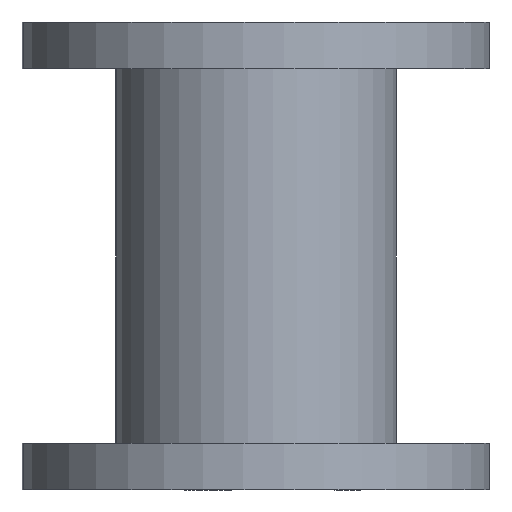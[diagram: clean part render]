
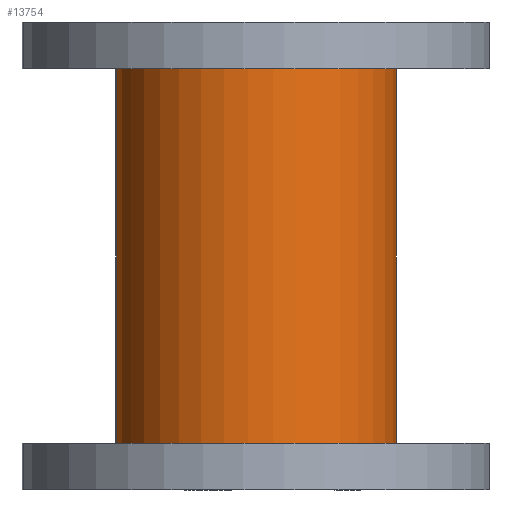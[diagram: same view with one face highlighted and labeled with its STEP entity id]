
A CAD part, front view. The second image highlights one B-rep face of the part: STEP entity #13754.
In plain terms, the highlighted cylindrical face has radius 60 mm (diameter 120 mm), a partial arc.
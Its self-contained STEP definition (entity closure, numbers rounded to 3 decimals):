
#242 = AXIS2_PLACEMENT_3D ( 'NONE', #4172, #3127, #942 ) ;
#398 = VECTOR ( 'NONE', #10791, 1000. ) ;
#856 = CARTESIAN_POINT ( 'NONE',  ( -60., 0., -80. ) ) ;
#942 = DIRECTION ( 'NONE',  ( 1., 0., 0. ) ) ;
#1257 = VERTEX_POINT ( 'NONE', #856 ) ;
#1504 = VERTEX_POINT ( 'NONE', #1536 ) ;
#1536 = CARTESIAN_POINT ( 'NONE',  ( 60., 0., -80. ) ) ;
#1943 = CARTESIAN_POINT ( 'NONE',  ( 0., 0., -100. ) ) ;
#2157 = DIRECTION ( 'NONE',  ( 0., 0., 1. ) ) ;
#2267 = ORIENTED_EDGE ( 'NONE', *, *, #11467, .F. ) ;
#2475 = ORIENTED_EDGE ( 'NONE', *, *, #4427, .T. ) ;
#2512 = VERTEX_POINT ( 'NONE', #10282 ) ;
#3033 = EDGE_LOOP ( 'NONE', ( #10322, #13673, #2475, #2267 ) ) ;
#3127 = DIRECTION ( 'NONE',  ( 0., 0., 1. ) ) ;
#3562 = DIRECTION ( 'NONE',  ( 1., 0., 0. ) ) ;
#3938 = DIRECTION ( 'NONE',  ( 0., 0., 1. ) ) ;
#4172 = CARTESIAN_POINT ( 'NONE',  ( 0., 0., 80. ) ) ;
#4301 = EDGE_CURVE ( 'NONE', #1257, #1504, #6670, .T. ) ;
#4427 = EDGE_CURVE ( 'NONE', #1504, #2512, #7542, .T. ) ;
#4530 = VECTOR ( 'NONE', #3938, 1000. ) ;
#5202 = CARTESIAN_POINT ( 'NONE',  ( -60., 0., 80. ) ) ;
#5813 = DIRECTION ( 'NONE',  ( 0., 0., 1. ) ) ;
#5954 = VERTEX_POINT ( 'NONE', #5202 ) ;
#6409 = CARTESIAN_POINT ( 'NONE',  ( 60., 0., -100. ) ) ;
#6670 = CIRCLE ( 'NONE', #11740, 60. ) ;
#7086 = AXIS2_PLACEMENT_3D ( 'NONE', #1943, #2157, #14785 ) ;
#7542 = LINE ( 'NONE', #6409, #398 ) ;
#8543 = CARTESIAN_POINT ( 'NONE',  ( -60., 0., -100. ) ) ;
#9166 = EDGE_CURVE ( 'NONE', #1257, #5954, #11952, .T. ) ;
#10282 = CARTESIAN_POINT ( 'NONE',  ( 60., 0., 80. ) ) ;
#10322 = ORIENTED_EDGE ( 'NONE', *, *, #9166, .F. ) ;
#10791 = DIRECTION ( 'NONE',  ( 0., 0., 1. ) ) ;
#11467 = EDGE_CURVE ( 'NONE', #5954, #2512, #11573, .T. ) ;
#11573 = CIRCLE ( 'NONE', #242, 60. ) ;
#11740 = AXIS2_PLACEMENT_3D ( 'NONE', #11854, #5813, #3562 ) ;
#11854 = CARTESIAN_POINT ( 'NONE',  ( 0., 0., -80. ) ) ;
#11952 = LINE ( 'NONE', #8543, #4530 ) ;
#13673 = ORIENTED_EDGE ( 'NONE', *, *, #4301, .T. ) ;
#13719 = FACE_OUTER_BOUND ( 'NONE', #3033, .T. ) ;
#13754 = ADVANCED_FACE ( 'NONE', ( #13719 ), #14870, .T. ) ;
#14785 = DIRECTION ( 'NONE',  ( 1., 0., 0. ) ) ;
#14870 = CYLINDRICAL_SURFACE ( 'NONE', #7086, 60. ) ;
